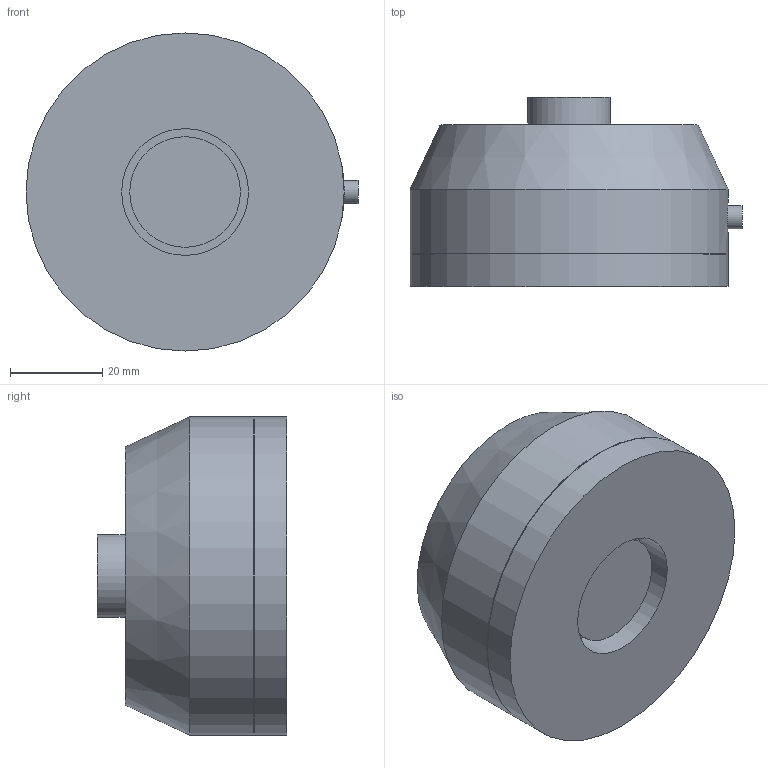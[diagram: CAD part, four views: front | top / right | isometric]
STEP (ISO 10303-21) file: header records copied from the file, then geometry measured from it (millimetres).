
FILE_DESCRIPTION(/* description */ (''),/* implementation_level */ '2;1');
FILE_NAME(/* name */ 'X:\Проектный отдел\Илья\3Д модели\Комплектующие к ЧПУ\Датчики концевые\Датчик высоты NC\Датчик высоты NC.stp',/* time_stamp */ '2021-03-23T11:25:33+03:00',/* author */ ('Евгений'),/* organization */ (''),/* preprocessor_version */ 'ST-DEVELOPER v18',/* originating_system */ 'Autodesk Inventor 2020',/* authorisation */ '');
FILE_SCHEMA (('AUTOMOTIVE_DESIGN { 1 0 10303 214 3 1 1 }'));
Length unit declared in the file: millimetre
Products named in the file (1): Датчик высоты 
- 2
Bounding box: 72 x 41 x 69 mm (x, y, z)
Volume: 117579 mm3; surface area: 15771.1 mm2
Topology: 1 solids, 1 shells, 20 faces, 46 edges, 36 vertices
Faces by surface type: plane 10, cylinder 9, cone 1
Full cylindrical faces by diameter (mm): 5 x1, 7 x1, 18 x1, 24 x1, 27.5 x1, 48 x1, 68.8 x1, 69 x2
Entity records: 720 total; most frequent: CARTESIAN_POINT 138, DIRECTION 120, ORIENTED_EDGE 92, AXIS2_PLACEMENT_3D 55, EDGE_CURVE 46, VERTEX_POINT 36, CIRCLE 34, EDGE_LOOP 28
